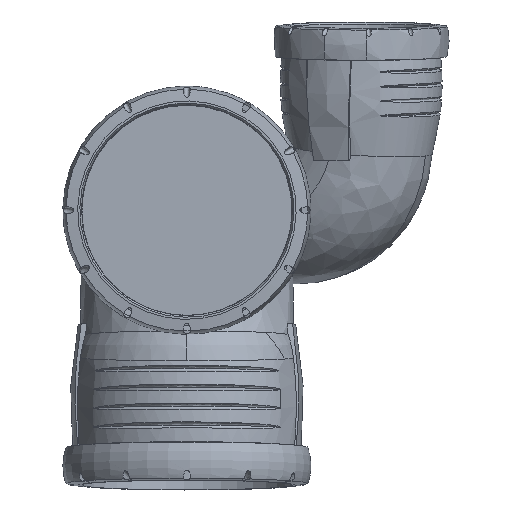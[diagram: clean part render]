
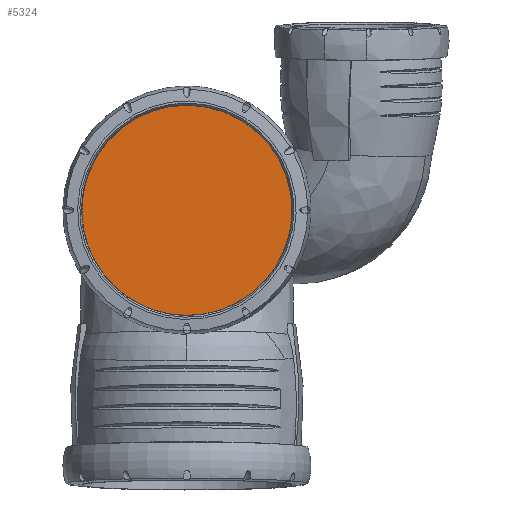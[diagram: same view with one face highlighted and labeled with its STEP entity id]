
A CAD part, top view. The second image highlights one B-rep face of the part: STEP entity #5324.
In plain terms, the highlighted planar face has unit normal (0, 0, 1).
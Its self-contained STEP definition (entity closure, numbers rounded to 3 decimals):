
#773=PLANE('',#5736);
#1051=FACE_OUTER_BOUND('',#1375,.T.);
#1375=EDGE_LOOP('',(#4729,#4730));
#1626=CIRCLE('',#5732,55.5);
#1627=CIRCLE('',#5734,55.5);
#2335=VERTEX_POINT('',#17346);
#2336=VERTEX_POINT('',#17347);
#3131=EDGE_CURVE('',#2335,#2336,#1626,.T.);
#3134=EDGE_CURVE('',#2336,#2335,#1627,.T.);
#4729=ORIENTED_EDGE('',*,*,#3134,.F.);
#4730=ORIENTED_EDGE('',*,*,#3131,.F.);
#5324=ADVANCED_FACE('',(#1051),#773,.T.);
#5732=AXIS2_PLACEMENT_3D('',#17348,#6620,#6621);
#5734=AXIS2_PLACEMENT_3D('',#17352,#6626,#6627);
#5736=AXIS2_PLACEMENT_3D('',#17354,#6630,#6631);
#6620=DIRECTION('center_axis',(0.,0.,
-1.));
#6621=DIRECTION('ref_axis',(0.878,0.479,0.));
#6626=DIRECTION('center_axis',(0.,0.,
-1.));
#6627=DIRECTION('ref_axis',(-0.878,-0.479,0.));
#6630=DIRECTION('center_axis',(0.,0.,
1.));
#6631=DIRECTION('ref_axis',(-1.,0.,0.));
#17346=CARTESIAN_POINT('',(48.706,26.608,215.4));
#17347=CARTESIAN_POINT('',(-48.706,-26.608,215.4));
#17348=CARTESIAN_POINT('Origin',(0.,0.001,
215.4));
#17352=CARTESIAN_POINT('Origin',(0.,-0.001,
215.4));
#17354=CARTESIAN_POINT('Origin',(56.462,56.73,215.4));
